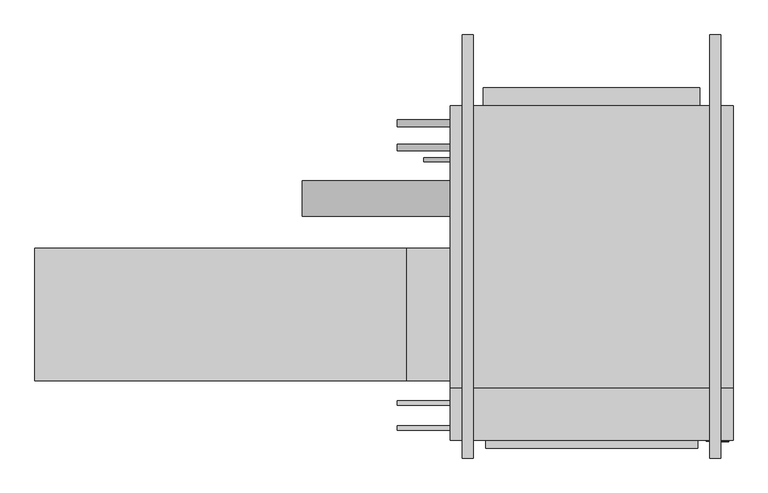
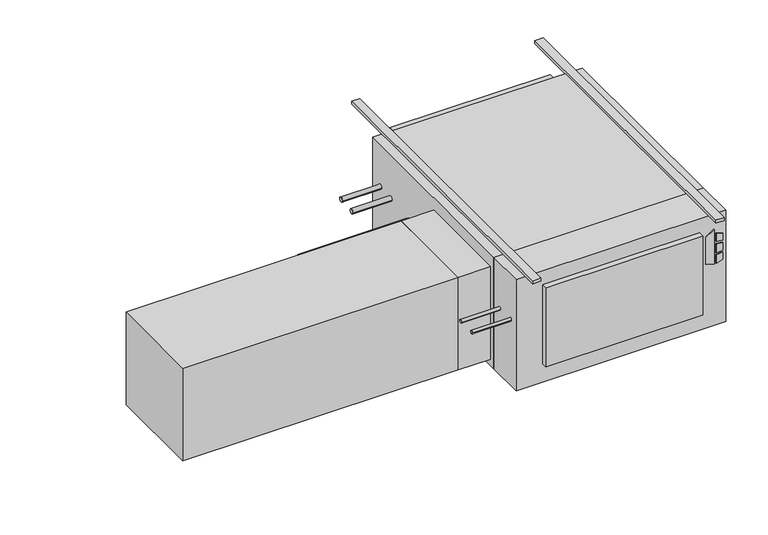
"""IFC4 building model written with IfcOpenShell, lengths in millimetres: proxy geometry."""

import ifcopenshell
import ifcopenshell.guid

model = None  # the IFC model being written
_history = None  # IfcOwnerHistory: only IFC2X3 demands one
_inside = {}  # id of a spatial element -> (the spatial element, [elements in it])
_under = {}  # id of a project, library or spatial element -> (it, [spatial elements below it])
_declared = {}  # id of a project -> (the project, [libraries it declares])
_typed = {}  # id of a type object -> (the type object, [elements of that type])
_made_of = {}  # id of a material, layer set ... -> (it, [elements and type objects made of it])


def new_model(schema):
    """Start an empty IFC model of exactly this schema.

    Asked for "IFC4X3", IfcOpenShell would pick the latest addendum, in which some entities
    have other attributes; the version numbers below select the first issue.
    IFC2X3 requires an IfcOwnerHistory on every rooted entity: one is made here for all.
    """
    global model, _history
    if schema == "IFC4X3":
        model = ifcopenshell.file(schema_version=(4, 3, 0, 0))
    else:
        model = ifcopenshell.file(schema=schema)
    _inside.clear()
    _under.clear()
    _declared.clear()
    _typed.clear()
    _made_of.clear()
    _history = None
    if model.schema == "IFC2X3":
        org = make("IfcOrganization", Name="unknown")
        user = make(
            "IfcPersonAndOrganization",
            ThePerson=make("IfcPerson", FamilyName="unknown"),
            TheOrganization=org,
        )
        app = make(
            "IfcApplication",
            ApplicationDeveloper=org,
            Version="unknown",
            ApplicationFullName="unknown",
            ApplicationIdentifier="unknown",
        )
        _history = make(
            "IfcOwnerHistory",
            OwningUser=user,
            OwningApplication=app,
            ChangeAction="ADDED",
            CreationDate=0,
        )
    return model


def make(cls, **values):
    """One entity of the class cls with the attributes given. An attribute that is None is left unset."""
    return model.create_entity(
        cls, **{name: value for name, value in values.items() if value is not None}
    )


def rooted(cls, **values):
    """An entity with a GlobalId (a new one), such as an element, a storey or a relation."""
    return make(cls, GlobalId=ifcopenshell.guid.new(), OwnerHistory=_history, **values)


def si_unit(unit_type, name, prefix=None):
    """IfcSIUnit, for example si_unit("LENGTHUNIT", "METRE", prefix="MILLI")."""
    return make("IfcSIUnit", UnitType=unit_type, Prefix=prefix, Name=name)


def assignment(units):
    """IfcUnitAssignment: the units of a project."""
    return None if units is None else make("IfcUnitAssignment", Units=units)


def point(xyz):
    """IfcCartesianPoint."""
    return None if xyz is None else make("IfcCartesianPoint", Coordinates=xyz)


def direction(xyz):
    """IfcDirection."""
    return None if xyz is None else make("IfcDirection", DirectionRatios=xyz)


def frame(location, z_axis=None, x_axis=None):
    """IfcAxis2Placement3D, a coordinate frame: its origin and axes. An axis left out is left unset."""
    return make(
        "IfcAxis2Placement3D",
        Location=point(location),
        Axis=direction(z_axis),
        RefDirection=direction(x_axis),
    )


def frame_2d(location, x_axis=None):
    """IfcAxis2Placement2D, a coordinate frame in the plane: its origin and x axis."""
    return make(
        "IfcAxis2Placement2D", Location=point(location), RefDirection=direction(x_axis)
    )


def origin():
    """The frame at (0, 0, 0) with its axes left unset."""
    return frame((0.0, 0.0, 0.0))


def origin_with_axes():
    """The frame at (0, 0, 0) with the z axis (0, 0, 1) and the x axis (1, 0, 0) written out."""
    return frame((0.0, 0.0, 0.0), z_axis=(0.0, 0.0, 1.0), x_axis=(1.0, 0.0, 0.0))


def place(relative_to, where):
    """IfcLocalPlacement: puts the frame where relative to a parent placement (None: the world)."""
    return make(
        "IfcLocalPlacement", PlacementRelTo=relative_to, RelativePlacement=where
    )


def context(
    kind, dimensions, precision=None, world=None, true_north=None, identifier=None
):
    """IfcGeometricRepresentationContext, for example the 3D "Model" context."""
    return make(
        "IfcGeometricRepresentationContext",
        ContextIdentifier=identifier,
        ContextType=kind,
        CoordinateSpaceDimension=dimensions,
        Precision=precision,
        WorldCoordinateSystem=world,
        TrueNorth=true_north,
    )


def project(units=None, contexts=None):
    """IfcProject with its units and contexts."""
    return rooted(
        "IfcProject",
        Name="project",
        RepresentationContexts=contexts,
        UnitsInContext=assignment(units),
    )


def spatial(cls, under=None, at=None, **own):
    """A site, building, storey or space (cls), placed at a placement, below another one or the project."""
    s = rooted(cls, ObjectPlacement=at, **own)
    if under is not None:
        _under.setdefault(under.id(), (under, []))[1].append(s)
    return s


def polyline(points):
    """IfcPolyline through the points."""
    return make("IfcPolyline", Points=[point(p) for p in points])


def circle_curve(where, radius):
    """IfcCircle in the frame where."""
    return make("IfcCircle", Position=where, Radius=radius)


def trimmed(basis, trim1, trim2, sense, master):
    """IfcTrimmedCurve: the piece of a basis curve between two trims."""
    return make(
        "IfcTrimmedCurve",
        BasisCurve=basis,
        Trim1=trim1,
        Trim2=trim2,
        SenseAgreement=sense,
        MasterRepresentation=master,
    )


def segment(curve, same_sense, transition):
    """IfcCompositeCurveSegment."""
    return make(
        "IfcCompositeCurveSegment",
        Transition=transition,
        SameSense=same_sense,
        ParentCurve=curve,
    )


def composite_curve(segments, self_intersect=None):
    """IfcCompositeCurve: segments joined end to end."""
    return make("IfcCompositeCurve", Segments=segments, SelfIntersect=self_intersect)


def outline(outer, holes=None, kind="AREA"):
    """IfcArbitraryClosedProfileDef: a profile drawn as a closed curve; with holes, ...WithVoids."""
    if holes is None:
        return make("IfcArbitraryClosedProfileDef", ProfileType=kind, OuterCurve=outer)
    return make(
        "IfcArbitraryProfileDefWithVoids",
        ProfileType=kind,
        OuterCurve=outer,
        InnerCurves=holes,
    )


def extrude(swept, where, along, depth):
    """IfcExtrudedAreaSolid: the profile swept, set in the frame where, extruded along a direction by depth."""
    return make(
        "IfcExtrudedAreaSolid",
        SweptArea=swept,
        Position=where,
        ExtrudedDirection=direction(along),
        Depth=depth,
    )


def shape(context_of_items, identifier, shape_type, items):
    """IfcShapeRepresentation: the items that make up one representation, for example the "Body"."""
    return make(
        "IfcShapeRepresentation",
        ContextOfItems=context_of_items,
        RepresentationIdentifier=identifier,
        RepresentationType=shape_type,
        Items=items,
    )


def source(mapping_origin, context_of_items, identifier, shape_type, items):
    """IfcRepresentationMap: a shape defined once, which mapped items show again and again."""
    return make(
        "IfcRepresentationMap",
        MappingOrigin=mapping_origin,
        MappedRepresentation=shape(context_of_items, identifier, shape_type, items),
    )


def transform(
    local_origin,
    x_axis=None,
    y_axis=None,
    z_axis=None,
    scale=None,
    scale2=None,
    scale3=None,
    uniform=True,
):
    """IfcCartesianTransformationOperator3D, or its non-uniform kind. x_axis, y_axis, z_axis: its Axis1, 2, 3."""
    if uniform:
        return make(
            "IfcCartesianTransformationOperator3D",
            Axis1=direction(x_axis),
            Axis2=direction(y_axis),
            LocalOrigin=point(local_origin),
            Scale=scale,
            Axis3=direction(z_axis),
        )
    return make(
        "IfcCartesianTransformationOperator3DnonUniform",
        Axis1=direction(x_axis),
        Axis2=direction(y_axis),
        LocalOrigin=point(local_origin),
        Scale=scale,
        Axis3=direction(z_axis),
        Scale2=scale2,
        Scale3=scale3,
    )


def mapped(mapping_source, mapping_target):
    """IfcMappedItem: shows the shape of a source again, moved by a transform."""
    return make(
        "IfcMappedItem", MappingSource=mapping_source, MappingTarget=mapping_target
    )


def made_of(thing, what):
    """Note that an element or type object is made of a material, layer set ...; save() writes the relation."""
    if what is not None:
        _made_of.setdefault(what.id(), (what, []))[1].append(thing)
    return thing


def element(
    cls,
    number,
    at=None,
    inside=None,
    cuts=None,
    type_object=None,
    material=None,
    context=None,
    identifier="Body",
    shape_type=None,
    held_by="IfcProductDefinitionShape",
    body=None,
    shapes=None,
    **own,
):
    """One element of the class cls, such as IfcWall. Its Tag is "e" and its number.

    at: its placement. inside: the storey or other place that contains it. cuts: it is an
    opening in that element (IfcRelVoidsElement). A single representation is given by context,
    identifier, shape_type and body (its items); several are given by shapes. held_by: the class
    of the entity that holds the representations. save() writes the other relations.
    """
    e = rooted(cls, Tag="e%d" % number, ObjectPlacement=at, **own)
    if body is not None:
        shapes = [shape(context, identifier, shape_type, body)]
    if shapes is not None:
        e.Representation = make(held_by, Representations=shapes)
    if inside is not None:
        _inside.setdefault(inside.id(), (inside, []))[1].append(e)
    if cuts is not None:
        rooted(
            "IfcRelVoidsElement", RelatingBuildingElement=cuts, RelatedOpeningElement=e
        )
    if type_object is not None:
        _typed.setdefault(type_object.id(), (type_object, []))[1].append(e)
    return made_of(e, material)


def aggregate(whole, parts):
    """IfcRelAggregates: a whole, such as a stair, and the parts it consists of."""
    return rooted("IfcRelAggregates", RelatingObject=whole, RelatedObjects=parts)


def save(model, path):
    """Write the relations noted so far, then the file.

    IfcRelAggregates (storeys below a building ...), IfcRelContainedInSpatialStructure (elements
    in a storey), IfcRelDefinesByType, IfcRelAssociatesMaterial and IfcRelDeclares: one each for
    every whole, place, type object, material and project.
    """
    for whole, parts in _under.values():
        aggregate(whole, parts)
    for where, things in _inside.values():
        rooted(
            "IfcRelContainedInSpatialStructure",
            RelatedElements=things,
            RelatingStructure=where,
        )
    for kind, things in _typed.values():
        rooted("IfcRelDefinesByType", RelatedObjects=things, RelatingType=kind)
    for what, things in _made_of.values():
        rooted("IfcRelAssociatesMaterial", RelatedObjects=things, RelatingMaterial=what)
    for by, libraries in _declared.values():
        rooted("IfcRelDeclares", RelatingContext=by, RelatedDefinitions=libraries)
    model.write(path)


def mechanical_equipment_cdb46610(model_context):
    return source(origin(), model_context, "Body", "SweptSolid", [
        extrude(outline(polyline([(-193.2519297, 481.0868862), (-203.2, 513.2602728), (-61.0290756, 513.2602728), (-84.0510817, 481.0868862), (-193.2519297, 481.0868862)])), frame((0.0, -797.052, 0.0), z_axis=(0.0, 1.0, 0.0), x_axis=(0.0, 0.0, 1.0)), (0.0, 0.0, 1.0), 3.175),
        extrude(outline(polyline([(-114.2526443, 520.0186058), (-117.4550368, 546.1), (-88.2261958, 546.1), (-80.1617807, 520.0186058), (-114.2526443, 520.0186058)])), frame((0.0, -797.052, 0.0), z_axis=(0.0, 1.0, 0.0), x_axis=(0.0, 0.0, 1.0)), (0.0, 0.0, 1.0), 3.175),
        extrude(outline(polyline([(-166.1161712, 546.1), (-169.7816721, 520.0186058), (-203.2, 520.0186058), (-194.5657628, 546.1), (-166.1161712, 546.1)])), frame((0.0, -797.052, 0.0), z_axis=(0.0, 1.0, 0.0), x_axis=(0.0, 0.0, 1.0)), (0.0, 0.0, 1.0), 3.175),
        extrude(outline(polyline([(-126.8010097, 546.1), (-124.5191834, 520.0186058), (-160.4567319, 520.0186058), (-157.7154669, 546.1), (-126.8010097, 546.1)])), frame((0.0, -797.052, 0.0), z_axis=(0.0, 1.0, 0.0), x_axis=(0.0, 0.0, 1.0)), (0.0, 0.0, 1.0), 3.175),
        extrude(outline(polyline([(558.8, -793.877), (-254.0, -793.877), (-254.0, -644.525), (558.8, -644.525), (558.8, -793.877)])), frame((0.0, 0.0, -457.2), z_axis=(0.0, 0.0, 1.0), x_axis=(1.0, 0.0, 0.0)), (0.0, 0.0, 1.0), 457.2),
        extrude(outline(polyline([(457.2, -816.229), (-152.4, -816.229), (-152.4, -793.877), (457.2, -793.877), (457.2, -816.229)])), frame((0.0, 0.0, -381.0), z_axis=(0.0, 0.0, 1.0), x_axis=(1.0, 0.0, 0.0)), (0.0, 0.0, 1.0), 323.85),
        extrude(outline(polyline([(-1447.8, -622.3), (-1447.8, -241.3), (-381.0, -241.3), (-381.0, -622.3), (-1447.8, -622.3)])), frame((0.0, 0.0, -431.8), z_axis=(0.0, 0.0, 1.0), x_axis=(1.0, 0.0, 0.0)), (0.0, 0.0, 1.0), 381.0),
        extrude(outline(polyline([(-254.0, -241.3), (-254.0, -622.3), (-381.0, -622.3), (-381.0, -241.3), (-254.0, -241.3)])), frame((0.0, 0.0, -431.8), z_axis=(0.0, 0.0, 1.0), x_axis=(1.0, 0.0, 0.0)), (0.0, 0.0, 1.0), 381.0),
        extrude(outline(composite_curve([segment(trimmed(circle_curve(frame_2d((-758.825, -184.15)), 6.35), [point((-765.175, -184.15))], [point((-752.475, -184.15))], False, "CARTESIAN"), True, "CONTINUOUS"), segment(trimmed(circle_curve(frame_2d((-758.825, -184.15)), 6.35), [point((-752.475, -184.15))], [point((-765.175, -184.15))], False, "CARTESIAN"), True, "CONTINUOUS")], self_intersect=False)), frame((-406.4, 0.0, 0.0), z_axis=(1.0, 0.0, 0.0), x_axis=(0.0, 1.0, 0.0)), (0.0, 0.0, 1.0), 152.4),
        extrude(outline(composite_curve([segment(trimmed(circle_curve(frame_2d((-685.8, -184.15)), 6.35), [point((-692.15, -184.15))], [point((-679.45, -184.15))], False, "CARTESIAN"), True, "CONTINUOUS"), segment(trimmed(circle_curve(frame_2d((-685.8, -184.15)), 6.35), [point((-679.45, -184.15))], [point((-692.15, -184.15))], False, "CARTESIAN"), True, "CONTINUOUS")], self_intersect=False)), frame((-406.4, 0.0, 0.0), z_axis=(1.0, 0.0, 0.0), x_axis=(0.0, 1.0, 0.0)), (0.0, 0.0, 1.0), 152.4),
        extrude(outline(composite_curve([segment(trimmed(circle_curve(frame_2d((-98.4896516, -228.6360165)), 50.8), [point((-149.2896516, -228.6360165))], [point((-47.6896516, -228.6360165))], False, "CARTESIAN"), True, "CONTINUOUS"), segment(trimmed(circle_curve(frame_2d((-98.4896516, -228.6360165)), 50.8), [point((-47.6896516, -228.6360165))], [point((-149.2896516, -228.6360165))], False, "CARTESIAN"), True, "CONTINUOUS")], self_intersect=False)), frame((-679.45, 0.0, 0.0), z_axis=(1.0, 0.0, 0.0), x_axis=(0.0, 1.0, 0.0)), (0.0, 0.0, 1.0), 425.45),
        extrude(outline(composite_curve([segment(trimmed(circle_curve(frame_2d((47.625, -177.8)), 9.525), [point((38.1, -177.8))], [point((57.15, -177.8))], False, "CARTESIAN"), True, "CONTINUOUS"), segment(trimmed(circle_curve(frame_2d((47.625, -177.8)), 9.525), [point((57.15, -177.8))], [point((38.1, -177.8))], False, "CARTESIAN"), True, "CONTINUOUS")], self_intersect=False)), frame((-406.4, 0.0, 0.0), z_axis=(1.0, 0.0, 0.0), x_axis=(0.0, 1.0, 0.0)), (0.0, 0.0, 1.0), 152.4),
        extrude(outline(composite_curve([segment(trimmed(circle_curve(frame_2d((117.475, -171.45)), 9.525), [point((107.95, -171.45))], [point((127.0, -171.45))], False, "CARTESIAN"), True, "CONTINUOUS"), segment(trimmed(circle_curve(frame_2d((117.475, -171.45)), 9.525), [point((127.0, -171.45))], [point((107.95, -171.45))], False, "CARTESIAN"), True, "CONTINUOUS")], self_intersect=False)), frame((-406.4, 0.0, 0.0), z_axis=(1.0, 0.0, 0.0), x_axis=(0.0, 1.0, 0.0)), (0.0, 0.0, 1.0), 152.4),
        extrude(outline(composite_curve([segment(trimmed(circle_curve(frame_2d((12.7, -409.575)), 6.35), [point((6.35, -409.575))], [point((19.05, -409.575))], False, "CARTESIAN"), True, "CONTINUOUS"), segment(trimmed(circle_curve(frame_2d((12.7, -409.575)), 6.35), [point((19.05, -409.575))], [point((6.35, -409.575))], False, "CARTESIAN"), True, "CONTINUOUS")], self_intersect=False)), frame((-330.2, 0.0, 0.0), z_axis=(1.0, 0.0, 0.0), x_axis=(0.0, 1.0, 0.0)), (0.0, 0.0, 1.0), 76.2),
        extrude(outline(polyline([(558.8, 168.275), (558.8, -644.525), (-254.0, -644.525), (-254.0, 168.275), (558.8, 168.275)])), frame((0.0, 0.0, -457.2), z_axis=(0.0, 0.0, 1.0), x_axis=(1.0, 0.0, 0.0)), (0.0, 0.0, 1.0), 457.2),
        extrude(outline(polyline([(-158.75, 219.075), (463.55, 219.075), (463.55, 168.275), (-158.75, 168.275), (-158.75, 219.075)])), frame((0.0, 0.0, -381.0), z_axis=(0.0, 0.0, 1.0), x_axis=(1.0, 0.0, 0.0)), (0.0, 0.0, 1.0), 355.6),
        extrude(outline(polyline([(-187.325, 371.475), (-187.325, -844.677), (-219.075, -844.677), (-219.075, 371.475), (-187.325, 371.475)])), origin_with_axes(), (0.0, 0.0, 1.0), 12.7),
        extrude(outline(polyline([(523.875, 371.475), (523.875, -844.677), (492.125, -844.677), (492.125, 371.475), (523.875, 371.475)])), origin_with_axes(), (0.0, 0.0, 1.0), 12.7),
    ])


if __name__ == "__main__":
    model = new_model("IFC4")
    model_context = context("Model", 3, world=origin())
    ifc_project = project(units=[si_unit("LENGTHUNIT", "METRE", prefix="MILLI")], contexts=[model_context])
    site = spatial("IfcSite", under=ifc_project)
    building = spatial("IfcBuilding", under=site)
    placement = place(None, origin())
    mechanical_equipment_shape = mechanical_equipment_cdb46610(model_context)
    element("IfcBuildingElementProxy", 1, Name="High_Capacity_Horizontal_Cabinet_Fan_Coil_Unit_-_HTY_-_IEC_-_4-Pipe_LH Side_2022 : Size 10 - 115v/60Hz/1Ph - 4/1 Coil - 4\" AirIn", ObjectType="High_Capacity_Horizontal_Cabinet_Fan_Coil_Unit_-_HTY_-_IEC_-_4-Pipe_LH Side_2022 : Size 10 - 115v/60Hz/1Ph - 4/1 Coil - 4\" AirIn", at=placement, inside=building, context=model_context, shape_type="MappedRepresentation", body=[
        mapped(mechanical_equipment_shape, transform((0.0, 0.0, 0.0), x_axis=(1.0, 0.0, 0.0), y_axis=(0.0, 1.0, 0.0), z_axis=(0.0, 0.0, 1.0))),
    ])
    save(model, "model.ifc")
